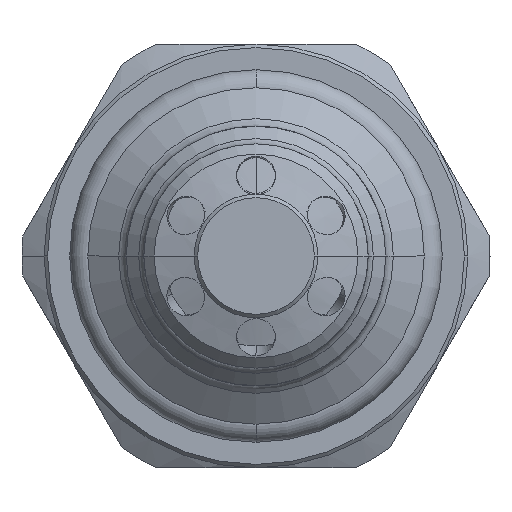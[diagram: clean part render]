
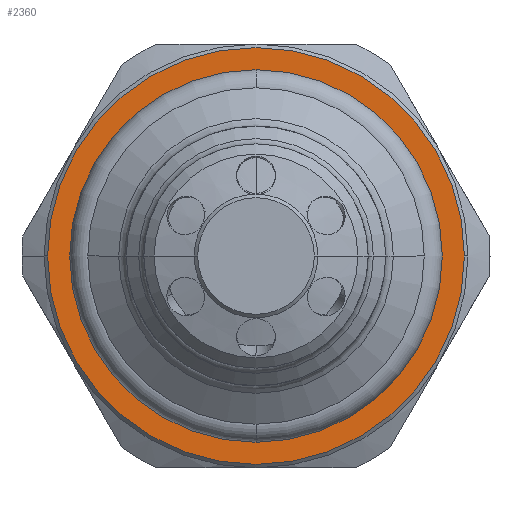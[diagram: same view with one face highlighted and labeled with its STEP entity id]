
A CAD part, front view. The second image highlights one B-rep face of the part: STEP entity #2360.
In plain terms, the highlighted planar face has unit normal (0, -1, 0).
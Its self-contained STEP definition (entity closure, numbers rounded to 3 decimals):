
#27 = CIRCLE ( 'NONE', #5741, 11.8 ) ;
#119 = VERTEX_POINT ( 'NONE', #3616 ) ;
#213 = AXIS2_PLACEMENT_3D ( 'NONE', #4485, #1049, #5083 ) ;
#752 = DIRECTION ( 'NONE',  ( 0., -1., 0. ) ) ;
#815 = VERTEX_POINT ( 'NONE', #7216 ) ;
#831 = FACE_BOUND ( 'NONE', #3418, .T. ) ;
#1049 = DIRECTION ( 'NONE',  ( 0., 1., 0. ) ) ;
#1241 = CARTESIAN_POINT ( 'NONE',  ( -3.523, 6.85, -0.264 ) ) ;
#1526 = EDGE_CURVE ( 'NONE', #119, #815, #4239, .T. ) ;
#1818 = DIRECTION ( 'NONE',  ( 1., 0., 0. ) ) ;
#1837 = AXIS2_PLACEMENT_3D ( 'NONE', #1241, #5255, #1818 ) ;
#1891 = EDGE_CURVE ( 'NONE', #2692, #5719, #4142, .T. ) ;
#2360 = ADVANCED_FACE ( 'NONE', ( #831, #6765 ), #5046, .T. ) ;
#2396 = CARTESIAN_POINT ( 'NONE',  ( 5.627, 6.85, -0.264 ) ) ;
#2682 = DIRECTION ( 'NONE',  ( 0., -1., 0. ) ) ;
#2683 = DIRECTION ( 'NONE',  ( 0., -1., 0. ) ) ;
#2692 = VERTEX_POINT ( 'NONE', #3264 ) ;
#3264 = CARTESIAN_POINT ( 'NONE',  ( -12.673, 6.85, -0.264 ) ) ;
#3418 = EDGE_LOOP ( 'NONE', ( #6819, #6388 ) ) ;
#3517 = AXIS2_PLACEMENT_3D ( 'NONE', #7025, #752, #4752 ) ;
#3616 = CARTESIAN_POINT ( 'NONE',  ( -15.323, 6.85, -0.264 ) ) ;
#4142 = CIRCLE ( 'NONE', #213, 9.15 ) ;
#4239 = CIRCLE ( 'NONE', #6254, 11.8 ) ;
#4485 = CARTESIAN_POINT ( 'NONE',  ( -3.523, 6.85, -0.264 ) ) ;
#4752 = DIRECTION ( 'NONE',  ( 1., 0., 0. ) ) ;
#5046 = PLANE ( 'NONE',  #3517 ) ;
#5083 = DIRECTION ( 'NONE',  ( 1., 0., 0. ) ) ;
#5184 = ORIENTED_EDGE ( 'NONE', *, *, #5538, .T. ) ;
#5255 = DIRECTION ( 'NONE',  ( 0., 1., 0. ) ) ;
#5538 = EDGE_CURVE ( 'NONE', #815, #119, #27, .T. ) ;
#5719 = VERTEX_POINT ( 'NONE', #2396 ) ;
#5741 = AXIS2_PLACEMENT_3D ( 'NONE', #6133, #2683, #6710 ) ;
#5758 = EDGE_LOOP ( 'NONE', ( #7155, #5184 ) ) ;
#6130 = CARTESIAN_POINT ( 'NONE',  ( -3.523, 6.85, -0.264 ) ) ;
#6133 = CARTESIAN_POINT ( 'NONE',  ( -3.523, 6.85, -0.264 ) ) ;
#6254 = AXIS2_PLACEMENT_3D ( 'NONE', #6130, #2682, #6709 ) ;
#6388 = ORIENTED_EDGE ( 'NONE', *, *, #1891, .T. ) ;
#6401 = EDGE_CURVE ( 'NONE', #5719, #2692, #6752, .T. ) ;
#6709 = DIRECTION ( 'NONE',  ( 1., 0., 0. ) ) ;
#6710 = DIRECTION ( 'NONE',  ( 1., 0., 0. ) ) ;
#6752 = CIRCLE ( 'NONE', #1837, 9.15 ) ;
#6765 = FACE_OUTER_BOUND ( 'NONE', #5758, .T. ) ;
#6819 = ORIENTED_EDGE ( 'NONE', *, *, #6401, .T. ) ;
#7025 = CARTESIAN_POINT ( 'NONE',  ( -3.523, 6.85, -0.264 ) ) ;
#7155 = ORIENTED_EDGE ( 'NONE', *, *, #1526, .T. ) ;
#7216 = CARTESIAN_POINT ( 'NONE',  ( 8.277, 6.85, -0.264 ) ) ;
